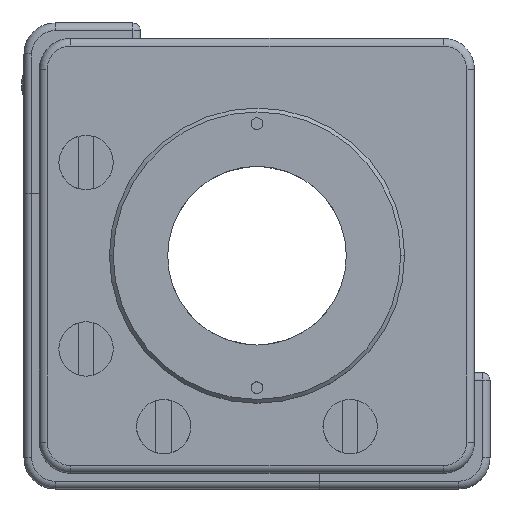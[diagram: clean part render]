
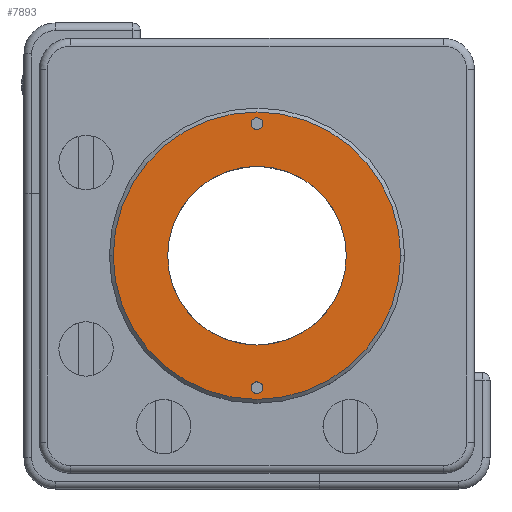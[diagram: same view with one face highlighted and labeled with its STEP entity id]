
A CAD part, top view. The second image highlights one B-rep face of the part: STEP entity #7893.
In plain terms, the highlighted planar face has unit normal (0, 0, 1).
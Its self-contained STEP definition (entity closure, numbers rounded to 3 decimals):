
#240 = CARTESIAN_POINT ( 'NONE',  ( 1.496, -0.23, 28. ) ) ;
#265 = DIRECTION ( 'NONE',  ( 0., 0., 1. ) ) ;
#269 = DIRECTION ( 'NONE',  ( 1., 0., 0. ) ) ;
#288 = EDGE_CURVE ( 'NONE', #18883, #958, #18956, .T. ) ;
#455 = EDGE_LOOP ( 'NONE', ( #18067, #9060 ) ) ;
#921 = DIRECTION ( 'NONE',  ( 0., 0., 1. ) ) ;
#958 = VERTEX_POINT ( 'NONE', #19914 ) ;
#982 = EDGE_CURVE ( 'NONE', #16270, #18401, #17609, .T. ) ;
#1091 = CIRCLE ( 'NONE', #4150, 18.5 ) ;
#1138 = CIRCLE ( 'NONE', #4377, 0.75 ) ;
#2003 = EDGE_LOOP ( 'NONE', ( #9582, #18088 ) ) ;
#2097 = VERTEX_POINT ( 'NONE', #17679 ) ;
#2458 = FACE_BOUND ( 'NONE', #455, .T. ) ;
#2677 = FACE_OUTER_BOUND ( 'NONE', #4769, .T. ) ;
#2717 = FACE_BOUND ( 'NONE', #2003, .T. ) ;
#2762 = FACE_BOUND ( 'NONE', #9553, .T. ) ;
#2887 = AXIS2_PLACEMENT_3D ( 'NONE', #12958, #3678, #14591 ) ;
#2980 = EDGE_CURVE ( 'NONE', #958, #18883, #19194, .T. ) ;
#3223 = CARTESIAN_POINT ( 'NONE',  ( 1.496, -0.23, 28. ) ) ;
#3678 = DIRECTION ( 'NONE',  ( 0., 0., 1. ) ) ;
#4150 = AXIS2_PLACEMENT_3D ( 'NONE', #16817, #7375, #18433 ) ;
#4377 = AXIS2_PLACEMENT_3D ( 'NONE', #8834, #19986, #10417 ) ;
#4769 = EDGE_LOOP ( 'NONE', ( #12624, #13377 ) ) ;
#4815 = DIRECTION ( 'NONE',  ( 0., 0., 1. ) ) ;
#5193 = EDGE_CURVE ( 'NONE', #2097, #10766, #7828, .T. ) ;
#5483 = AXIS2_PLACEMENT_3D ( 'NONE', #18459, #18382, #18473 ) ;
#6218 = EDGE_CURVE ( 'NONE', #10213, #16023, #18754, .T. ) ;
#6606 = AXIS2_PLACEMENT_3D ( 'NONE', #19133, #19081, #19063 ) ;
#7375 = DIRECTION ( 'NONE',  ( 0., 0., 1. ) ) ;
#7828 = CIRCLE ( 'NONE', #14837, 18.5 ) ;
#7893 = ADVANCED_FACE ( 'NONE', ( #2677, #2762, #2458, #2717 ), #14132, .T. ) ;
#8834 = CARTESIAN_POINT ( 'NONE',  ( 1.496, -17.23, 28. ) ) ;
#9060 = ORIENTED_EDGE ( 'NONE', *, *, #982, .F. ) ;
#9553 = EDGE_LOOP ( 'NONE', ( #13504, #13830 ) ) ;
#9582 = ORIENTED_EDGE ( 'NONE', *, *, #2980, .F. ) ;
#9846 = DIRECTION ( 'NONE',  ( -1., 0., 0. ) ) ;
#10213 = VERTEX_POINT ( 'NONE', #17338 ) ;
#10417 = DIRECTION ( 'NONE',  ( -1., 0., 0. ) ) ;
#10766 = VERTEX_POINT ( 'NONE', #18167 ) ;
#11112 = AXIS2_PLACEMENT_3D ( 'NONE', #3223, #4815, #15723 ) ;
#11807 = EDGE_CURVE ( 'NONE', #16023, #10213, #1138, .T. ) ;
#11835 = EDGE_CURVE ( 'NONE', #10766, #2097, #1091, .T. ) ;
#12443 = CARTESIAN_POINT ( 'NONE',  ( 2.246, -17.23, 28. ) ) ;
#12500 = EDGE_CURVE ( 'NONE', #18401, #16270, #19095, .T. ) ;
#12624 = ORIENTED_EDGE ( 'NONE', *, *, #11835, .T. ) ;
#12958 = CARTESIAN_POINT ( 'NONE',  ( 1.496, 16.77, 28. ) ) ;
#13166 = CARTESIAN_POINT ( 'NONE',  ( 1.496, -17.23, 28. ) ) ;
#13173 = AXIS2_PLACEMENT_3D ( 'NONE', #13166, #921, #9846 ) ;
#13377 = ORIENTED_EDGE ( 'NONE', *, *, #5193, .T. ) ;
#13504 = ORIENTED_EDGE ( 'NONE', *, *, #11807, .F. ) ;
#13830 = ORIENTED_EDGE ( 'NONE', *, *, #6218, .F. ) ;
#14132 = PLANE ( 'NONE',  #11112 ) ;
#14591 = DIRECTION ( 'NONE',  ( 1., 0., 0. ) ) ;
#14794 = CARTESIAN_POINT ( 'NONE',  ( 2.246, 16.77, 28. ) ) ;
#14837 = AXIS2_PLACEMENT_3D ( 'NONE', #16795, #16797, #16920 ) ;
#15723 = DIRECTION ( 'NONE',  ( 1., 0., 0. ) ) ;
#16023 = VERTEX_POINT ( 'NONE', #12443 ) ;
#16200 = CARTESIAN_POINT ( 'NONE',  ( 0.746, 16.77, 28. ) ) ;
#16270 = VERTEX_POINT ( 'NONE', #16200 ) ;
#16795 = CARTESIAN_POINT ( 'NONE',  ( 1.496, -0.23, 28. ) ) ;
#16797 = DIRECTION ( 'NONE',  ( 0., 0., 1. ) ) ;
#16817 = CARTESIAN_POINT ( 'NONE',  ( 1.496, -0.23, 28. ) ) ;
#16920 = DIRECTION ( 'NONE',  ( 1., 0., 0. ) ) ;
#17338 = CARTESIAN_POINT ( 'NONE',  ( 0.746, -17.23, 28. ) ) ;
#17609 = CIRCLE ( 'NONE', #6606, 0.75 ) ;
#17679 = CARTESIAN_POINT ( 'NONE',  ( 19.996, -0.23, 28. ) ) ;
#18067 = ORIENTED_EDGE ( 'NONE', *, *, #12500, .F. ) ;
#18088 = ORIENTED_EDGE ( 'NONE', *, *, #288, .F. ) ;
#18167 = CARTESIAN_POINT ( 'NONE',  ( -17.004, -0.23, 28. ) ) ;
#18382 = DIRECTION ( 'NONE',  ( 0., 0., 1. ) ) ;
#18401 = VERTEX_POINT ( 'NONE', #14794 ) ;
#18433 = DIRECTION ( 'NONE',  ( 1., 0., 0. ) ) ;
#18459 = CARTESIAN_POINT ( 'NONE',  ( 1.496, -0.23, 28. ) ) ;
#18473 = DIRECTION ( 'NONE',  ( 1., 0., 0. ) ) ;
#18754 = CIRCLE ( 'NONE', #13173, 0.75 ) ;
#18883 = VERTEX_POINT ( 'NONE', #19085 ) ;
#18956 = CIRCLE ( 'NONE', #5483, 11.5 ) ;
#19063 = DIRECTION ( 'NONE',  ( 1., 0., 0. ) ) ;
#19081 = DIRECTION ( 'NONE',  ( 0., 0., 1. ) ) ;
#19085 = CARTESIAN_POINT ( 'NONE',  ( -10.004, -0.23, 28. ) ) ;
#19095 = CIRCLE ( 'NONE', #2887, 0.75 ) ;
#19133 = CARTESIAN_POINT ( 'NONE',  ( 1.496, 16.77, 28. ) ) ;
#19163 = AXIS2_PLACEMENT_3D ( 'NONE', #240, #265, #269 ) ;
#19194 = CIRCLE ( 'NONE', #19163, 11.5 ) ;
#19914 = CARTESIAN_POINT ( 'NONE',  ( 12.996, -0.23, 28. ) ) ;
#19986 = DIRECTION ( 'NONE',  ( 0., 0., 1. ) ) ;
